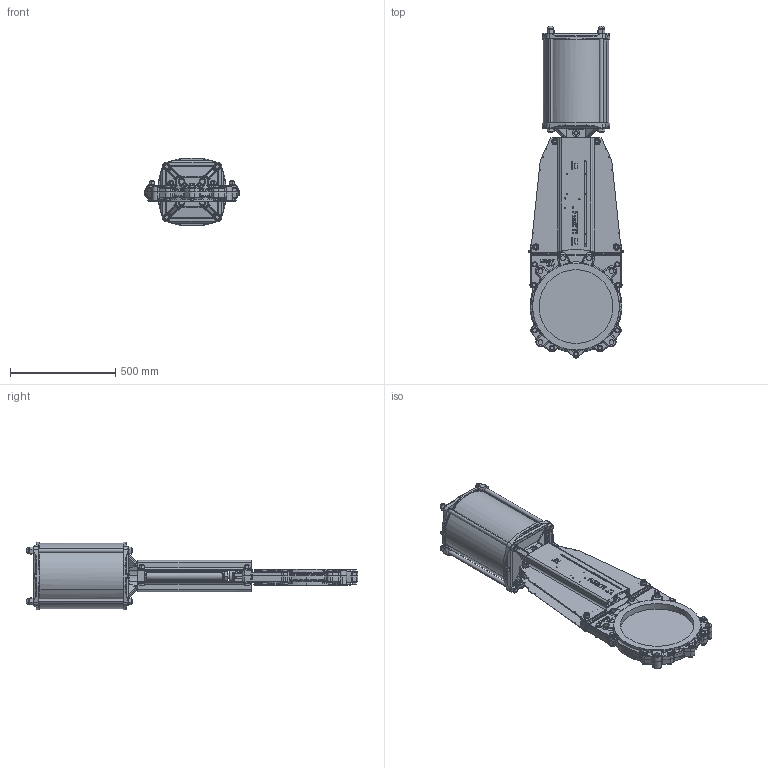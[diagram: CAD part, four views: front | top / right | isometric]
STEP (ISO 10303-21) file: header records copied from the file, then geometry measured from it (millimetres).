
FILE_DESCRIPTION (( 'STEP AP214' ), '1' );
FILE_NAME ('VSC DN 0350 Zyl.-Reihe 2.STEP', '2015-09-23T11:12:58', ( 'admin' ), ( 'Hewlett-Packard Company' ), 'SwSTEP 2.0', 'SolidWorks 2013', '' );
FILE_SCHEMA (( 'AUTOMOTIVE_DESIGN' ));
Length unit declared in the file: millimetre
Products named in the file (1): VSC DN 0350 Zyl.-Reihe 2
Bounding box: 452 x 1574.43 x 320 mm (x, y, z)
Volume: 18952530.1 mm3; surface area: 3350503.4 mm2
Topology: 91 solids, 95 shells, 4372 faces, 10325 edges, 6034 vertices
Faces by surface type: plane 1302, cylinder 1133, bspline 803, cone 778, torus 278, sphere 78
Entity records: 204303 total; most frequent: CARTESIAN_POINT 61606, ORIENTED_EDGE 20190, DIRECTION 18718, EDGE_CURVE 10095, AXIS2_PLACEMENT_3D 7597, VERTEX_POINT 6018, EDGE_LOOP 4761, UNCERTAINTY_MEASURE_WITH_UNIT 4463
